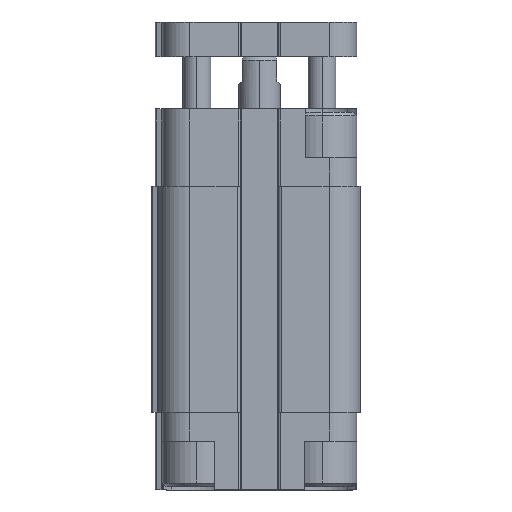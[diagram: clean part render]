
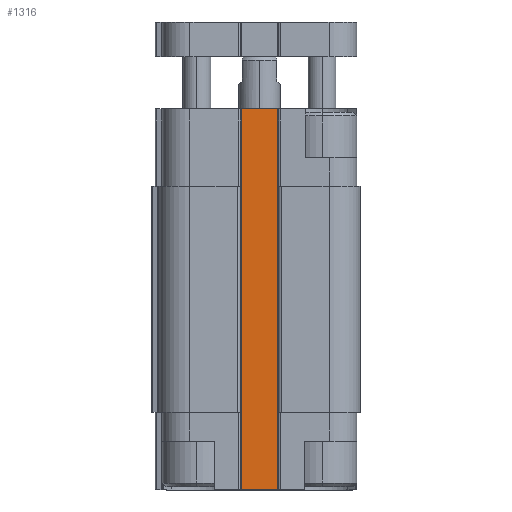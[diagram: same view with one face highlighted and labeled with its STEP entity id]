
A CAD part, left-side view. The second image highlights one B-rep face of the part: STEP entity #1316.
In plain terms, the highlighted planar face has unit normal (-1, 0, 0).
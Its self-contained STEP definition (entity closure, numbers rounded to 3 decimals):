
#11 = CARTESIAN_POINT ( 'NONE',  ( -10.2, -2.6, -11.15 ) ) ;
#16 = PLANE ( 'NONE',  #2861 ) ;
#19 = DIRECTION ( 'NONE',  ( 1., 0., 0. ) ) ;
#20 = DIRECTION ( 'NONE',  ( 0., 1., 0. ) ) ;
#1316 = ADVANCED_FACE ( 'NONE', ( #2483 ), #16, .F. ) ;
#1894 = ORIENTED_EDGE ( 'NONE', *, *, #11500, .F. ) ;
#1895 = ORIENTED_EDGE ( 'NONE', *, *, #11499, .T. ) ;
#1896 = ORIENTED_EDGE ( 'NONE', *, *, #12701, .F. ) ;
#1897 = ORIENTED_EDGE ( 'NONE', *, *, #12613, .F. ) ;
#2483 = FACE_OUTER_BOUND ( 'NONE', #11030, .T. ) ;
#2861 = AXIS2_PLACEMENT_3D ( 'NONE', #11, #19, #20 ) ;
#5093 = LINE ( 'NONE', #7920, #5096 ) ;
#5094 = LINE ( 'NONE', #7919, #5097 ) ;
#5096 = VECTOR ( 'NONE', #7925, 1000. ) ;
#5097 = VECTOR ( 'NONE', #7926, 1000. ) ;
#7919 = CARTESIAN_POINT ( 'NONE',  ( -10.2, 2.6, 16.25 ) ) ;
#7920 = CARTESIAN_POINT ( 'NONE',  ( -10.2, -2.6, 43.65 ) ) ;
#7925 = DIRECTION ( 'NONE',  ( 0., 1., 0. ) ) ;
#7926 = DIRECTION ( 'NONE',  ( 0., 0., 1. ) ) ;
#8143 = CARTESIAN_POINT ( 'NONE',  ( -10.2, -2.6, -11.15 ) ) ;
#8152 = CARTESIAN_POINT ( 'NONE',  ( -10.2, 2.6, -11.15 ) ) ;
#8189 = CARTESIAN_POINT ( 'NONE',  ( -10.2, -2.6, 43.65 ) ) ;
#8195 = CARTESIAN_POINT ( 'NONE',  ( -10.2, 2.6, 43.65 ) ) ;
#8410 = DIRECTION ( 'NONE',  ( 0., 1., 0. ) ) ;
#8411 = CARTESIAN_POINT ( 'NONE',  ( -10.2, 0., -11.15 ) ) ;
#8597 = LINE ( 'NONE', #8411, #8599 ) ;
#8599 = VECTOR ( 'NONE', #8410, 1000. ) ;
#8737 = LINE ( 'NONE', #9169, #8740 ) ;
#8740 = VECTOR ( 'NONE', #9170, 1000. ) ;
#9169 = CARTESIAN_POINT ( 'NONE',  ( -10.2, -2.6, 16.25 ) ) ;
#9170 = DIRECTION ( 'NONE',  ( 0., 0., -1. ) ) ;
#11030 = EDGE_LOOP ( 'NONE', ( #1897, #1896, #1895, #1894 ) ) ;
#11499 = EDGE_CURVE ( 'NONE', #11684, #11690, #5093, .T. ) ;
#11500 = EDGE_CURVE ( 'NONE', #11647, #11690, #5094, .T. ) ;
#11638 = VERTEX_POINT ( 'NONE', #8143 ) ;
#11647 = VERTEX_POINT ( 'NONE', #8152 ) ;
#11684 = VERTEX_POINT ( 'NONE', #8189 ) ;
#11690 = VERTEX_POINT ( 'NONE', #8195 ) ;
#12613 = EDGE_CURVE ( 'NONE', #11638, #11647, #8597, .T. ) ;
#12701 = EDGE_CURVE ( 'NONE', #11684, #11638, #8737, .T. ) ;
